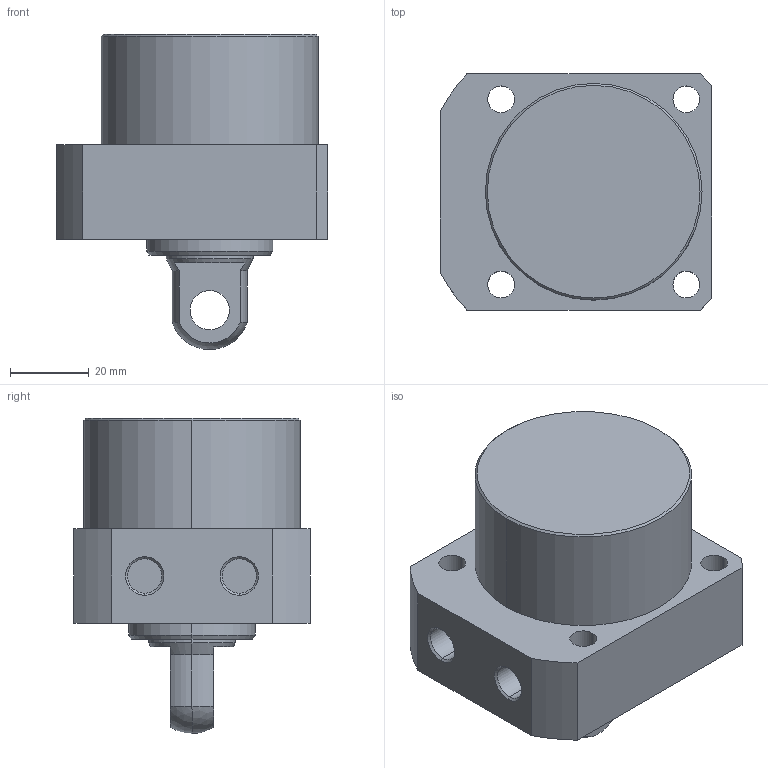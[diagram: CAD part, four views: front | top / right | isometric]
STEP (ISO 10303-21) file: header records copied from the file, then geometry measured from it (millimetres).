
FILE_DESCRIPTION (( 'STEP AP203' ), '1' );
FILE_NAME ('CLLR-055CP-(1-14).STEP', '2019-12-19T08:16:24', ( '' ), ( '' ), 'SwSTEP 2.0', 'SolidWorks 2015', '' );
FILE_SCHEMA (( 'CONFIG_CONTROL_DESIGN' ));
Length unit declared in the file: millimetre
Products named in the file (1): CLLR-055CP-(1-14)
Bounding box: 69 x 60 x 80 mm (x, y, z)
Volume: 165772.5 mm3; surface area: 23116 mm2
Topology: 1 solids, 1 shells, 59 faces, 139 edges, 89 vertices
Faces by surface type: cylinder 29, plane 18, cone 10, sphere 2
Entity records: 1820 total; most frequent: DIRECTION 329, CARTESIAN_POINT 300, ORIENTED_EDGE 278, EDGE_CURVE 139, AXIS2_PLACEMENT_3D 134, VERTEX_POINT 89, EDGE_LOOP 76, CIRCLE 74
